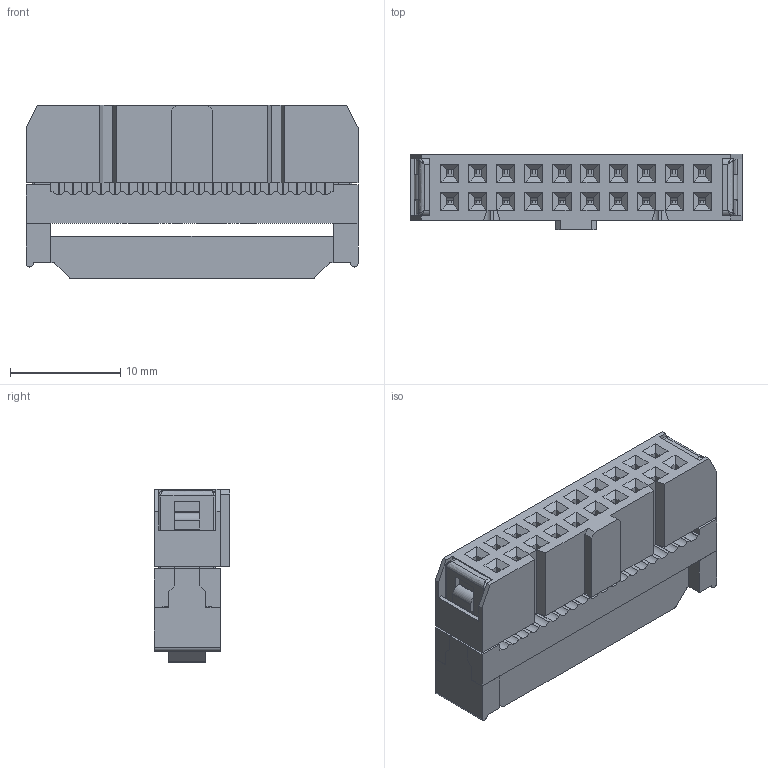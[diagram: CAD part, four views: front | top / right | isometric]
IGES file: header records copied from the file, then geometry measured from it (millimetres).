
Global section: file name: Filename.iges; native system: Open CASCADE 7.3; preprocessor: Open CASCADE IGES processor 7.3; date: 20201209.080523; units: millimetre
Bounding box: 30.08 x 6.86 x 15.7 mm (x, y, z)
Surface area: 3897 mm2 (no closed solid volume)
Topology: 0 solids, 0 shells, 1273 faces, 7060 edges, 7048 vertices
Faces by surface type: plane 966, revolution 292, extrusion 11, bspline 4
